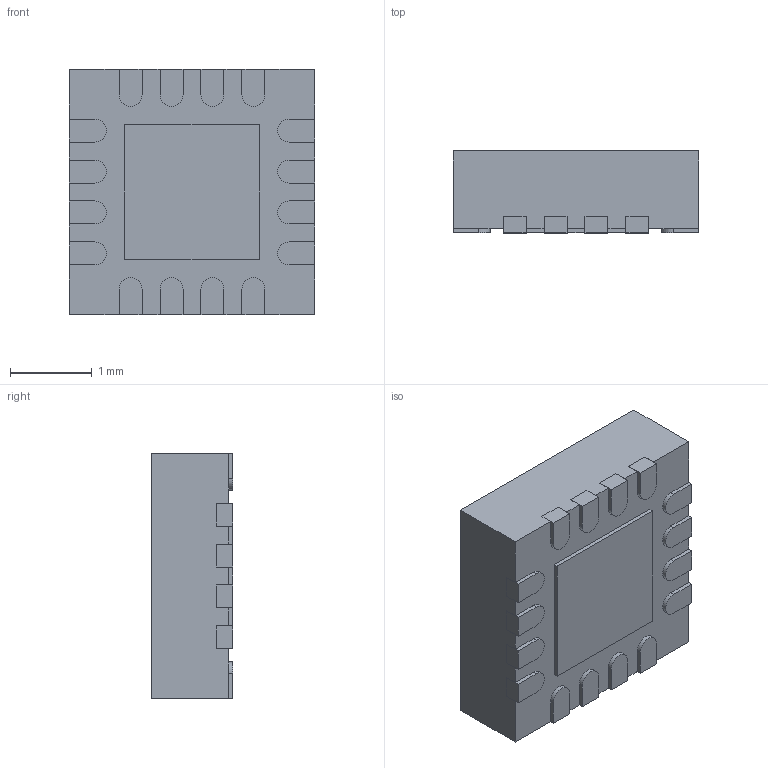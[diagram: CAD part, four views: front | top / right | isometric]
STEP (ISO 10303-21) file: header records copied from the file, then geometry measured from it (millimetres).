
FILE_DESCRIPTION(('FreeCAD Model'),'2;1');
FILE_NAME('Open CASCADE Shape Model','2025-09-16T01:43:10',(''),(''), 'Open CASCADE STEP processor 7.8','FreeCAD','Unknown');
FILE_SCHEMA(('AUTOMOTIVE_DESIGN { 1 0 10303 214 1 1 1 1 }'));
Length unit declared in the file: millimetre
Products named in the file (10): QFN_standard; Body_Solid1; Body001_Solid1; Array_Solid1; Array001_Solid2; Body002_Solid1; Array002_Solid1; Array003_Solid2; Body003_Solid1; Body004_Solid1
Assembly tree (19 placements, depth 2):
  QFN_standard
    Body_Solid1
    Body001_Solid1
    Array_Solid1  x4
    Array001_Solid2  x3
    Body002_Solid1
    Array002_Solid1  x4
    Array003_Solid2  x3
    Body003_Solid1
    Body004_Solid1
Bounding box: 3 x 1 x 3 mm (x, y, z)
Volume: 8.8 mm3; surface area: 45.2 mm2
Topology: 19 solids, 19 shells, 177 faces, 414 edges, 276 vertices
Faces by surface type: plane 143, cylinder 34
Full cylindrical faces by diameter (mm): 0.3 x2
Entity records: 4028 total; most frequent: CARTESIAN_POINT 627, DIRECTION 616, ORIENTED_EDGE 588, EDGE_CURVE 294, LINE 246, VECTOR 246, VERTEX_POINT 196, AXIS2_PLACEMENT_3D 185
